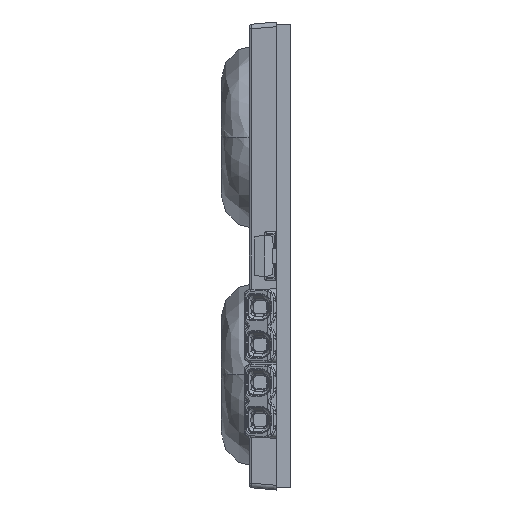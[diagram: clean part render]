
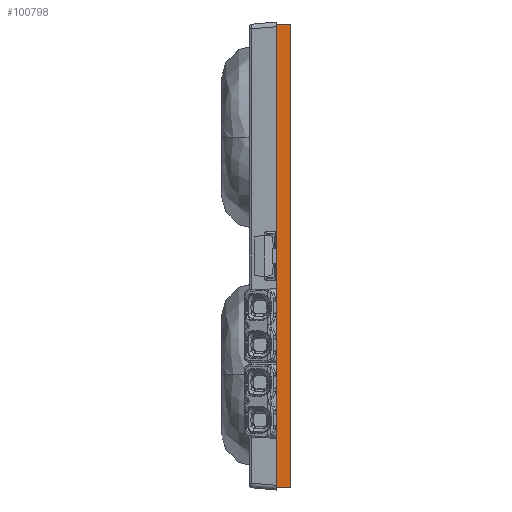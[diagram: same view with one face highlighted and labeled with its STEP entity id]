
A CAD part, left-side view. The second image highlights one B-rep face of the part: STEP entity #100798.
In plain terms, the highlighted planar face has unit normal (-1, 0, 0).
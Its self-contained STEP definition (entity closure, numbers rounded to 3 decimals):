
#5112 = CARTESIAN_POINT ( 'NONE',  ( 0., 0., -49.5 ) ) ;
#7399 = DIRECTION ( 'NONE',  ( -1., 0., 0. ) ) ;
#14592 = CARTESIAN_POINT ( 'NONE',  ( 0., 0., 0. ) ) ;
#20603 = CARTESIAN_POINT ( 'NONE',  ( 0., -1.5, 0. ) ) ;
#24335 = VERTEX_POINT ( 'NONE', #20603 ) ;
#32872 = CARTESIAN_POINT ( 'NONE',  ( 0., -1.5, -49.5 ) ) ;
#34272 = VERTEX_POINT ( 'NONE', #114766 ) ;
#37754 = VERTEX_POINT ( 'NONE', #62018 ) ;
#41306 = DIRECTION ( 'NONE',  ( 0., 0., 1. ) ) ;
#43364 = LINE ( 'NONE', #65963, #128238 ) ;
#45499 = LINE ( 'NONE', #105512, #49561 ) ;
#49561 = VECTOR ( 'NONE', #106613, 1000. ) ;
#61315 = ORIENTED_EDGE ( 'NONE', *, *, #97877, .F. ) ;
#62018 = CARTESIAN_POINT ( 'NONE',  ( 0., 0., -49.5 ) ) ;
#64846 = EDGE_CURVE ( 'NONE', #34272, #24335, #43364, .T. ) ;
#65963 = CARTESIAN_POINT ( 'NONE',  ( 0., -1.5, -49.5 ) ) ;
#73094 = LINE ( 'NONE', #5112, #103279 ) ;
#77740 = AXIS2_PLACEMENT_3D ( 'NONE', #32872, #7399, #111304 ) ;
#79052 = ORIENTED_EDGE ( 'NONE', *, *, #64846, .T. ) ;
#87513 = LINE ( 'NONE', #153060, #133826 ) ;
#91413 = DIRECTION ( 'NONE',  ( 0., 0., 1. ) ) ;
#94705 = VERTEX_POINT ( 'NONE', #14592 ) ;
#97877 = EDGE_CURVE ( 'NONE', #37754, #94705, #73094, .T. ) ;
#100798 = ADVANCED_FACE ( 'NONE', ( #158819 ), #109069, .T. ) ;
#103279 = VECTOR ( 'NONE', #41306, 1000. ) ;
#105512 = CARTESIAN_POINT ( 'NONE',  ( 0., -1.5, 0. ) ) ;
#106613 = DIRECTION ( 'NONE',  ( 0., 1., 0. ) ) ;
#107463 = ORIENTED_EDGE ( 'NONE', *, *, #108099, .F. ) ;
#108099 = EDGE_CURVE ( 'NONE', #34272, #37754, #87513, .T. ) ;
#109069 = PLANE ( 'NONE',  #77740 ) ;
#111304 = DIRECTION ( 'NONE',  ( 0., 0., 1. ) ) ;
#111950 = EDGE_CURVE ( 'NONE', #24335, #94705, #45499, .T. ) ;
#114766 = CARTESIAN_POINT ( 'NONE',  ( 0., -1.5, -49.5 ) ) ;
#122826 = EDGE_LOOP ( 'NONE', ( #61315, #107463, #79052, #148736 ) ) ;
#125338 = DIRECTION ( 'NONE',  ( 0., 1., 0. ) ) ;
#128238 = VECTOR ( 'NONE', #91413, 1000. ) ;
#133826 = VECTOR ( 'NONE', #125338, 1000. ) ;
#148736 = ORIENTED_EDGE ( 'NONE', *, *, #111950, .T. ) ;
#153060 = CARTESIAN_POINT ( 'NONE',  ( 0., -1.5, -49.5 ) ) ;
#158819 = FACE_OUTER_BOUND ( 'NONE', #122826, .T. ) ;
